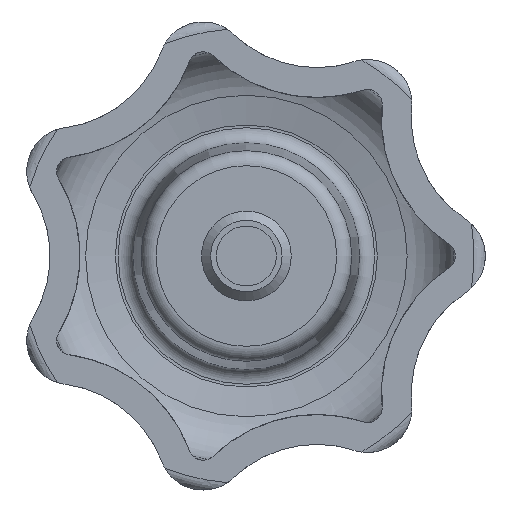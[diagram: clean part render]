
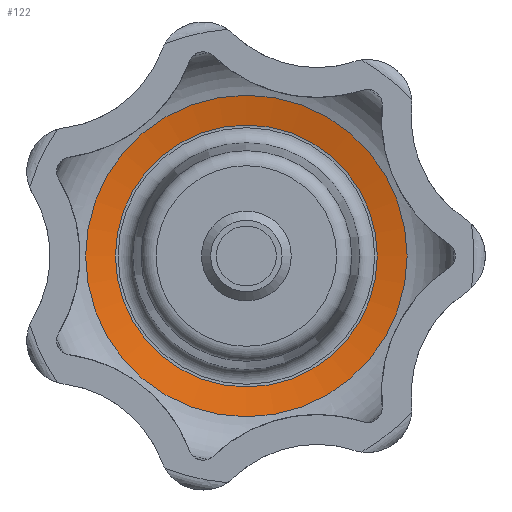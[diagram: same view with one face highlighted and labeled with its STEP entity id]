
A CAD part, front view. The second image highlights one B-rep face of the part: STEP entity #122.
In plain terms, the highlighted conical face has half-angle 78.082 degrees and reference radius 10.74 mm.
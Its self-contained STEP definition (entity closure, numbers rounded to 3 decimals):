
#122 = ADVANCED_FACE( '', ( #243, #244 ), #245, .F. );
#243 = FACE_BOUND( '', #387, .T. );
#244 = FACE_OUTER_BOUND( '', #388, .T. );
#245 = CONICAL_SURFACE( '', #389, 10.74, 1.363 );
#387 = EDGE_LOOP( '', ( #902 ) );
#388 = EDGE_LOOP( '', ( #903 ) );
#389 = AXIS2_PLACEMENT_3D( '', #904, #905, #906 );
#902 = ORIENTED_EDGE( '', *, *, #1172, .F. );
#903 = ORIENTED_EDGE( '', *, *, #1100, .T. );
#904 = CARTESIAN_POINT( '', ( 0., 16.78, 0. ) );
#905 = DIRECTION( '', ( 0., -1., 0. ) );
#906 = DIRECTION( '', ( 0., 0., -1. ) );
#1100 = EDGE_CURVE( '', #1348, #1348, #1349, .T. );
#1172 = EDGE_CURVE( '', #1466, #1466, #1467, .T. );
#1348 = VERTEX_POINT( '', #2188 );
#1349 = CIRCLE( '', #2189, 10.74 );
#1466 = VERTEX_POINT( '', #2821 );
#1467 = CIRCLE( '', #2822, 8.75 );
#2188 = CARTESIAN_POINT( '', ( 0., 16.78, -10.74 ) );
#2189 = AXIS2_PLACEMENT_3D( '', #2995, #2996, #2997 );
#2821 = CARTESIAN_POINT( '', ( 0., 17.2, -8.75 ) );
#2822 = AXIS2_PLACEMENT_3D( '', #3049, #3050, #3051 );
#2995 = CARTESIAN_POINT( '', ( 0., 16.78, 0. ) );
#2996 = DIRECTION( '', ( 0., -1., 0. ) );
#2997 = DIRECTION( '', ( 0., 0., -1. ) );
#3049 = CARTESIAN_POINT( '', ( 0., 17.2, 0. ) );
#3050 = DIRECTION( '', ( 0., -1., 0. ) );
#3051 = DIRECTION( '', ( 0., 0., -1. ) );
